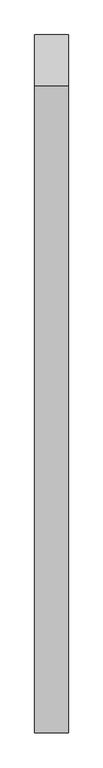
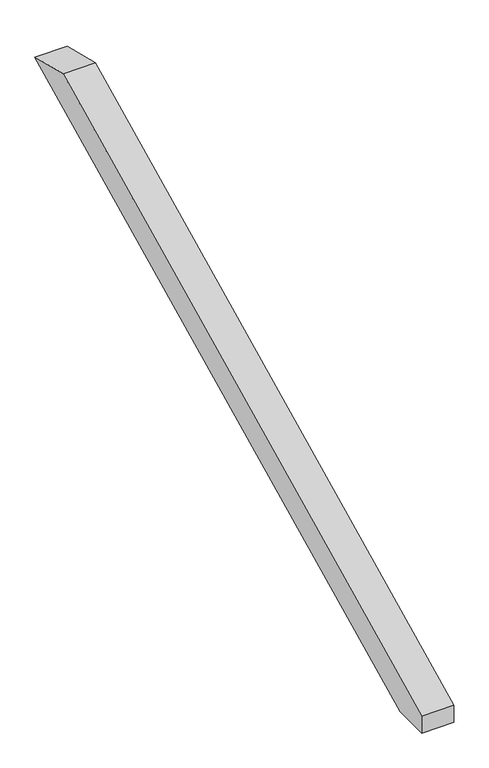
"""IFC4 building model written with IfcOpenShell, lengths in millimetres: proxy geometry, Modelos genéricos 116 : Modelos genéricos 16."""

import ifcopenshell
import ifcopenshell.guid

model = None  # the IFC model being written
_history = None  # IfcOwnerHistory: only IFC2X3 demands one
_inside = {}  # id of a spatial element -> (the spatial element, [elements in it])
_under = {}  # id of a project, library or spatial element -> (it, [spatial elements below it])
_declared = {}  # id of a project -> (the project, [libraries it declares])
_typed = {}  # id of a type object -> (the type object, [elements of that type])
_made_of = {}  # id of a material, layer set ... -> (it, [elements and type objects made of it])


def new_model(schema):
    """Start an empty IFC model of exactly this schema.

    Asked for "IFC4X3", IfcOpenShell would pick the latest addendum, in which some entities
    have other attributes; the version numbers below select the first issue.
    IFC2X3 requires an IfcOwnerHistory on every rooted entity: one is made here for all.
    """
    global model, _history
    if schema == "IFC4X3":
        model = ifcopenshell.file(schema_version=(4, 3, 0, 0))
    else:
        model = ifcopenshell.file(schema=schema)
    _inside.clear()
    _under.clear()
    _declared.clear()
    _typed.clear()
    _made_of.clear()
    _history = None
    if model.schema == "IFC2X3":
        org = make("IfcOrganization", Name="unknown")
        user = make(
            "IfcPersonAndOrganization",
            ThePerson=make("IfcPerson", FamilyName="unknown"),
            TheOrganization=org,
        )
        app = make(
            "IfcApplication",
            ApplicationDeveloper=org,
            Version="unknown",
            ApplicationFullName="unknown",
            ApplicationIdentifier="unknown",
        )
        _history = make(
            "IfcOwnerHistory",
            OwningUser=user,
            OwningApplication=app,
            ChangeAction="ADDED",
            CreationDate=0,
        )
    return model


def make(cls, **values):
    """One entity of the class cls with the attributes given. An attribute that is None is left unset."""
    return model.create_entity(
        cls, **{name: value for name, value in values.items() if value is not None}
    )


def rooted(cls, **values):
    """An entity with a GlobalId (a new one), such as an element, a storey or a relation."""
    return make(cls, GlobalId=ifcopenshell.guid.new(), OwnerHistory=_history, **values)


def si_unit(unit_type, name, prefix=None):
    """IfcSIUnit, for example si_unit("LENGTHUNIT", "METRE", prefix="MILLI")."""
    return make("IfcSIUnit", UnitType=unit_type, Prefix=prefix, Name=name)


def assignment(units):
    """IfcUnitAssignment: the units of a project."""
    return None if units is None else make("IfcUnitAssignment", Units=units)


def point(xyz):
    """IfcCartesianPoint."""
    return None if xyz is None else make("IfcCartesianPoint", Coordinates=xyz)


def direction(xyz):
    """IfcDirection."""
    return None if xyz is None else make("IfcDirection", DirectionRatios=xyz)


def frame(location, z_axis=None, x_axis=None):
    """IfcAxis2Placement3D, a coordinate frame: its origin and axes. An axis left out is left unset."""
    return make(
        "IfcAxis2Placement3D",
        Location=point(location),
        Axis=direction(z_axis),
        RefDirection=direction(x_axis),
    )


def origin():
    """The frame at (0, 0, 0) with its axes left unset."""
    return frame((0.0, 0.0, 0.0))


def place(relative_to, where):
    """IfcLocalPlacement: puts the frame where relative to a parent placement (None: the world)."""
    return make(
        "IfcLocalPlacement", PlacementRelTo=relative_to, RelativePlacement=where
    )


def context(
    kind, dimensions, precision=None, world=None, true_north=None, identifier=None
):
    """IfcGeometricRepresentationContext, for example the 3D "Model" context."""
    return make(
        "IfcGeometricRepresentationContext",
        ContextIdentifier=identifier,
        ContextType=kind,
        CoordinateSpaceDimension=dimensions,
        Precision=precision,
        WorldCoordinateSystem=world,
        TrueNorth=true_north,
    )


def project(units=None, contexts=None):
    """IfcProject with its units and contexts."""
    return rooted(
        "IfcProject",
        Name="project",
        RepresentationContexts=contexts,
        UnitsInContext=assignment(units),
    )


def spatial(cls, under=None, at=None, **own):
    """A site, building, storey or space (cls), placed at a placement, below another one or the project."""
    s = rooted(cls, ObjectPlacement=at, **own)
    if under is not None:
        _under.setdefault(under.id(), (under, []))[1].append(s)
    return s


def polyline(points):
    """IfcPolyline through the points."""
    return make("IfcPolyline", Points=[point(p) for p in points])


def outline(outer, holes=None, kind="AREA"):
    """IfcArbitraryClosedProfileDef: a profile drawn as a closed curve; with holes, ...WithVoids."""
    if holes is None:
        return make("IfcArbitraryClosedProfileDef", ProfileType=kind, OuterCurve=outer)
    return make(
        "IfcArbitraryProfileDefWithVoids",
        ProfileType=kind,
        OuterCurve=outer,
        InnerCurves=holes,
    )


def extrude(swept, where, along, depth):
    """IfcExtrudedAreaSolid: the profile swept, set in the frame where, extruded along a direction by depth."""
    return make(
        "IfcExtrudedAreaSolid",
        SweptArea=swept,
        Position=where,
        ExtrudedDirection=direction(along),
        Depth=depth,
    )


def shape(context_of_items, identifier, shape_type, items):
    """IfcShapeRepresentation: the items that make up one representation, for example the "Body"."""
    return make(
        "IfcShapeRepresentation",
        ContextOfItems=context_of_items,
        RepresentationIdentifier=identifier,
        RepresentationType=shape_type,
        Items=items,
    )


def source(mapping_origin, context_of_items, identifier, shape_type, items):
    """IfcRepresentationMap: a shape defined once, which mapped items show again and again."""
    return make(
        "IfcRepresentationMap",
        MappingOrigin=mapping_origin,
        MappedRepresentation=shape(context_of_items, identifier, shape_type, items),
    )


def transform(
    local_origin,
    x_axis=None,
    y_axis=None,
    z_axis=None,
    scale=None,
    scale2=None,
    scale3=None,
    uniform=True,
):
    """IfcCartesianTransformationOperator3D, or its non-uniform kind. x_axis, y_axis, z_axis: its Axis1, 2, 3."""
    if uniform:
        return make(
            "IfcCartesianTransformationOperator3D",
            Axis1=direction(x_axis),
            Axis2=direction(y_axis),
            LocalOrigin=point(local_origin),
            Scale=scale,
            Axis3=direction(z_axis),
        )
    return make(
        "IfcCartesianTransformationOperator3DnonUniform",
        Axis1=direction(x_axis),
        Axis2=direction(y_axis),
        LocalOrigin=point(local_origin),
        Scale=scale,
        Axis3=direction(z_axis),
        Scale2=scale2,
        Scale3=scale3,
    )


def mapped(mapping_source, mapping_target):
    """IfcMappedItem: shows the shape of a source again, moved by a transform."""
    return make(
        "IfcMappedItem", MappingSource=mapping_source, MappingTarget=mapping_target
    )


def made_of(thing, what):
    """Note that an element or type object is made of a material, layer set ...; save() writes the relation."""
    if what is not None:
        _made_of.setdefault(what.id(), (what, []))[1].append(thing)
    return thing


def element(
    cls,
    number,
    at=None,
    inside=None,
    cuts=None,
    type_object=None,
    material=None,
    context=None,
    identifier="Body",
    shape_type=None,
    held_by="IfcProductDefinitionShape",
    body=None,
    shapes=None,
    **own,
):
    """One element of the class cls, such as IfcWall. Its Tag is "e" and its number.

    at: its placement. inside: the storey or other place that contains it. cuts: it is an
    opening in that element (IfcRelVoidsElement). A single representation is given by context,
    identifier, shape_type and body (its items); several are given by shapes. held_by: the class
    of the entity that holds the representations. save() writes the other relations.
    """
    e = rooted(cls, Tag="e%d" % number, ObjectPlacement=at, **own)
    if body is not None:
        shapes = [shape(context, identifier, shape_type, body)]
    if shapes is not None:
        e.Representation = make(held_by, Representations=shapes)
    if inside is not None:
        _inside.setdefault(inside.id(), (inside, []))[1].append(e)
    if cuts is not None:
        rooted(
            "IfcRelVoidsElement", RelatingBuildingElement=cuts, RelatedOpeningElement=e
        )
    if type_object is not None:
        _typed.setdefault(type_object.id(), (type_object, []))[1].append(e)
    return made_of(e, material)


def aggregate(whole, parts):
    """IfcRelAggregates: a whole, such as a stair, and the parts it consists of."""
    return rooted("IfcRelAggregates", RelatingObject=whole, RelatedObjects=parts)


def save(model, path):
    """Write the relations noted so far, then the file.

    IfcRelAggregates (storeys below a building ...), IfcRelContainedInSpatialStructure (elements
    in a storey), IfcRelDefinesByType, IfcRelAssociatesMaterial and IfcRelDeclares: one each for
    every whole, place, type object, material and project.
    """
    for whole, parts in _under.values():
        aggregate(whole, parts)
    for where, things in _inside.values():
        rooted(
            "IfcRelContainedInSpatialStructure",
            RelatedElements=things,
            RelatingStructure=where,
        )
    for kind, things in _typed.values():
        rooted("IfcRelDefinesByType", RelatedObjects=things, RelatingType=kind)
    for what, things in _made_of.values():
        rooted("IfcRelAssociatesMaterial", RelatedObjects=things, RelatingMaterial=what)
    for by, libraries in _declared.values():
        rooted("IfcRelDeclares", RelatingContext=by, RelatedDefinitions=libraries)
    model.write(path)


def generic_models_064d881c(model_context):
    return source(origin(), model_context, "Body", "SweptSolid", [
        extrude(outline(polyline([(3173.8548825, 3756.8218964), (3264.4256133, 3734.240077), (2087.0589775, 3160.0), (2018.6238165, 3160.0), (2018.6238165, 3193.3780582), (3173.8548825, 3756.8218964)])), frame((5573.4472467, 0.0, 0.0), z_axis=(1.0, 0.0, 0.0), x_axis=(0.0, 1.0, 0.0)), (0.0, 0.0, 1.0), 60.0),
    ])


if __name__ == "__main__":
    model = new_model("IFC4")
    model_context = context("Model", 3, world=origin())
    ifc_project = project(units=[si_unit("LENGTHUNIT", "METRE", prefix="MILLI")], contexts=[model_context])
    site = spatial("IfcSite", under=ifc_project)
    building = spatial("IfcBuilding", under=site)
    placement = place(None, origin())
    generic_models_shape = generic_models_064d881c(model_context)
    element("IfcBuildingElementProxy", 1, Name="Modelos genéricos 116 : Modelos genéricos 16", ObjectType="Modelos genéricos 116 : Modelos genéricos 16", at=placement, inside=building, context=model_context, shape_type="MappedRepresentation", body=[
        mapped(generic_models_shape, transform((0.0, 0.0, 0.0), x_axis=(1.0, 0.0, 0.0), y_axis=(0.0, 1.0, 0.0), z_axis=(0.0, 0.0, 1.0))),
    ])
    save(model, "model.ifc")
